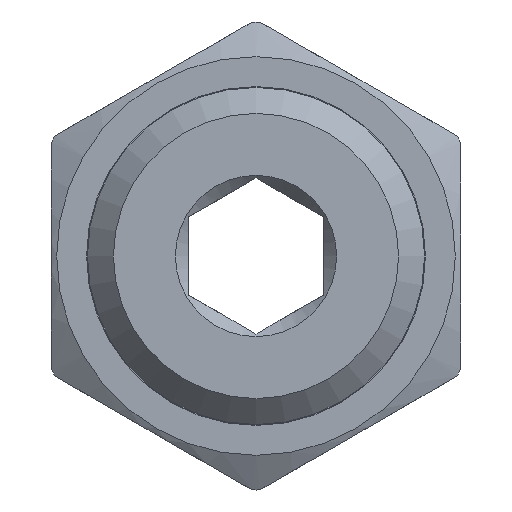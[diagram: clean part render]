
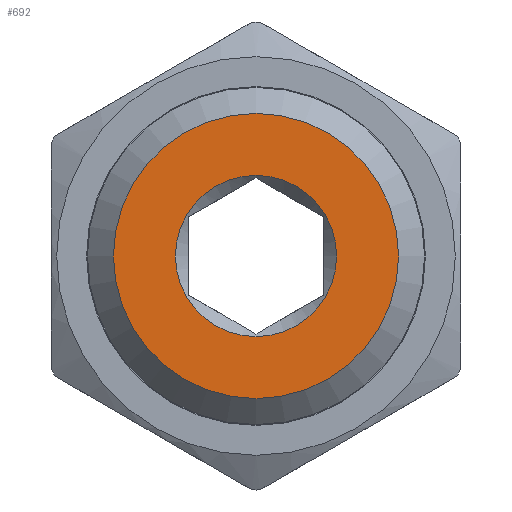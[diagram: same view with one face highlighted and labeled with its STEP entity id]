
A CAD part, front view. The second image highlights one B-rep face of the part: STEP entity #692.
In plain terms, the highlighted planar face has unit normal (0, -1, 0).
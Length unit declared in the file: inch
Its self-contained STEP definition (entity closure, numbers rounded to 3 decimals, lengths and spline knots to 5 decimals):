
#17=FACE_BOUND('',#145,.T.);
#50=CIRCLE('',#758,0.093);
#51=CIRCLE('',#760,0.1645);
#106=FACE_OUTER_BOUND('',#144,.T.);
#144=EDGE_LOOP('',(#550));
#145=EDGE_LOOP('',(#551));
#311=VERTEX_POINT('',#1184);
#312=VERTEX_POINT('',#1188);
#404=EDGE_CURVE('',#311,#311,#50,.T.);
#405=EDGE_CURVE('',#312,#312,#51,.T.);
#550=ORIENTED_EDGE('',*,*,#405,.F.);
#551=ORIENTED_EDGE('',*,*,#404,.F.);
#665=PLANE('',#759);
#692=ADVANCED_FACE('',(#106,#17),#665,.T.);
#758=AXIS2_PLACEMENT_3D('',#1186,#900,#901);
#759=AXIS2_PLACEMENT_3D('',#1187,#902,#903);
#760=AXIS2_PLACEMENT_3D('',#1189,#904,#905);
#900=DIRECTION('center_axis',(0.,-1.,0.));
#901=DIRECTION('ref_axis',(0.,0.,1.));
#902=DIRECTION('center_axis',(0.,-1.,0.));
#903=DIRECTION('ref_axis',(0.,0.,-1.));
#904=DIRECTION('center_axis',(0.,1.,0.));
#905=DIRECTION('ref_axis',(0.,0.,1.));
#1184=CARTESIAN_POINT('',(0.,0.,-0.093));
#1186=CARTESIAN_POINT('Origin',(0.,0.,0.));
#1187=CARTESIAN_POINT('Origin',(0.,0.,-0.078));
#1188=CARTESIAN_POINT('',(0.,0.,-0.1645));
#1189=CARTESIAN_POINT('Origin',(0.,0.,0.));
